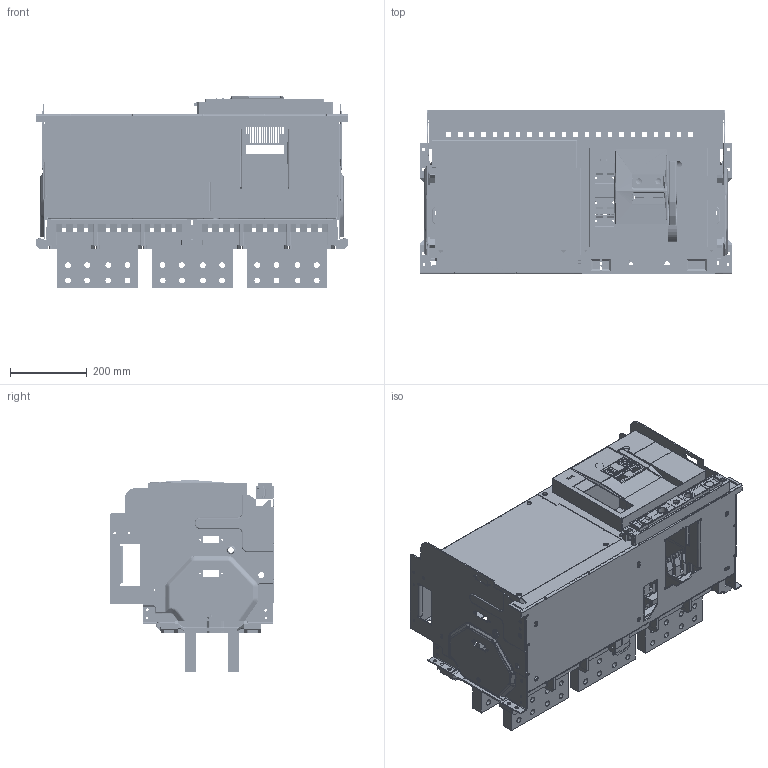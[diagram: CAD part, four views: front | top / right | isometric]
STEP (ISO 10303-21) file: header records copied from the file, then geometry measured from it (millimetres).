
FILE_DESCRIPTION(('CAx-IF Rec.Pracs.---Model Styling and Organization---1.2---2011-12-15','CAx-IF Rec.Pracs.---Geometric and Assembly Validation Properties---4.1---2014-06-16','CAx-IF Rec.Pracs.---PMI Polyline Presentation---2.0---2013-05-24'),'2;1');
FILE_NAME('YON AD-5000-S5-D horizontal connection.stp','2021-07-13T11:39:02+03:00',(''),(''),'STEP Interface 4.4 by CT CoreTechnologie','3D_Evolution4.4 by CT CoreTechnologie','');
FILE_SCHEMA(('AUTOMOTIVE_DESIGN { 1 0 10303 214 1 1 1 1 }'));
Length unit declared in the file: millimetre
Products named in the file (1): YON AD-5000-S5-D horizontal connection
Bounding box: 815 x 429 x 500.97 mm (x, y, z)
Surface area: 4587912.3 mm2 (no closed solid volume)
Topology: 0 solids, 43 shells, 5745 faces, 16687 edges, 10669 vertices
Faces by surface type: plane 3262, cylinder 2085, bspline 398
Entity records: 309150 total; most frequent: CARTESIAN_POINT 47291, ORIENTED_EDGE 32897, DIRECTION 30974, EDGE_CURVE 16497, VECTOR 11886, LINE 11886, PROPERTY_DEFINITION 11375, VERTEX_POINT 10658
